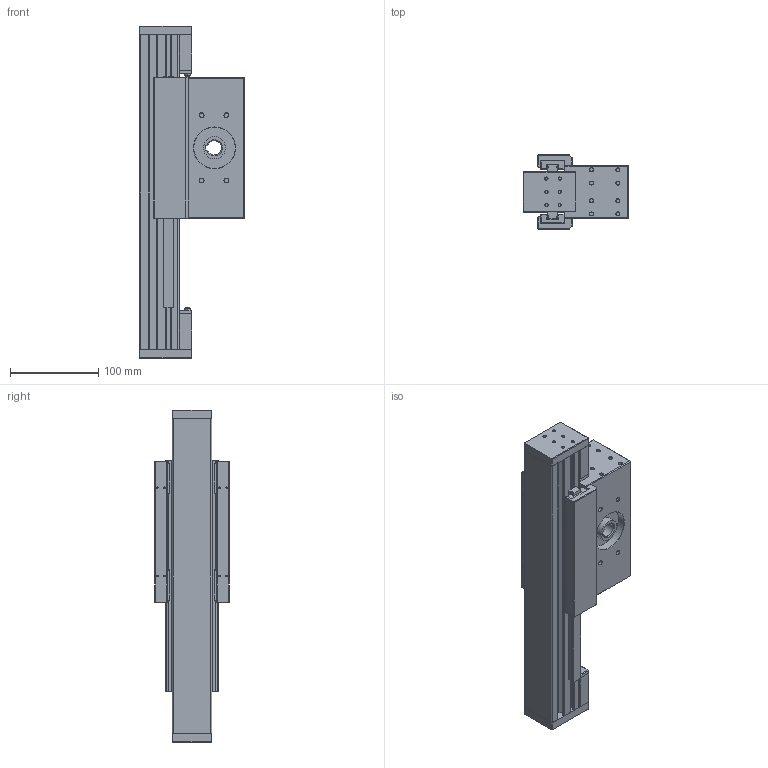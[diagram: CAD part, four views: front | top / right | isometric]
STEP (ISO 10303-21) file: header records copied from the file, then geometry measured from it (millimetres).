
FILE_DESCRIPTION((''),'2;1');
FILE_NAME('Z46-100T_ASM','2017-02-20T',('Owner'),(''),'PRO/ENGINEER BY PARAMETRIC TECHNOLOGY CORPORATION, 2009440','PRO/ENGINEER BY PARAMETRIC TECHNOLOGY CORPORATION, 2009440','');
FILE_SCHEMA(('CONFIG_CONTROL_DESIGN'));
Length unit declared in the file: millimetre
Products named in the file (10): Z46S_EXTRUDE_STRUCTURE; Z46_SIDE_CAP; Z46S_UP_CAP; Z46_CUSHION; Z46_DRIVER; PULLEY; MGN12C_RAIL; MGN12C_BLOCK; Z46T_MOUNT; Z46-100T_ASM
Assembly tree (17 placements, depth 2):
  Z46-100T_ASM
    Z46S_EXTRUDE_STRUCTURE
    Z46_SIDE_CAP  x2
    Z46S_UP_CAP  x2
    Z46_CUSHION  x2
    Z46_DRIVER
    PULLEY
    MGN12C_RAIL  x2
    MGN12C_BLOCK  x4
    Z46T_MOUNT  x2
Bounding box: 119 x 84 x 376 mm (x, y, z)
Volume: 1500348 mm3; surface area: 287513.8 mm2
Topology: 17 solids, 17 shells, 725 faces, 1694 edges, 1070 vertices
Faces by surface type: plane 424, cylinder 161, cone 138, torus 2
Entity records: 14300 total; most frequent: DIRECTION 2575, CARTESIAN_POINT 2400, ORIENTED_EDGE 2290, EDGE_CURVE 1145, AXIS2_PLACEMENT_3D 907, VECTOR 761, LINE 761, VERTEX_POINT 720
